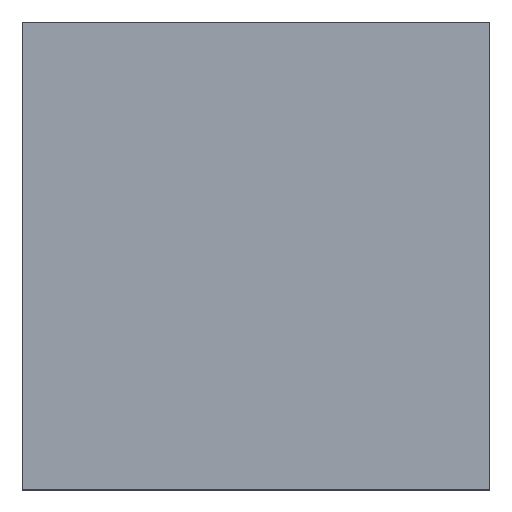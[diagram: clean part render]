
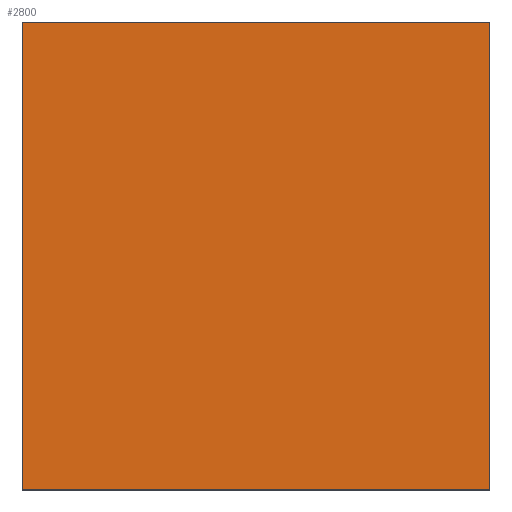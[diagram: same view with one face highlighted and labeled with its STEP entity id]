
A CAD part, top view. The second image highlights one B-rep face of the part: STEP entity #2800.
In plain terms, the highlighted planar face has unit normal (0, 0, 1).
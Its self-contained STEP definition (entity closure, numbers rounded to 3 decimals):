
#120 = CARTESIAN_POINT ('', (7.5, -7.5, 5.));
#130 = VERTEX_POINT ('', #120);
#190 = CARTESIAN_POINT ('', (-7.5, -7.5, 5.));
#200 = VERTEX_POINT ('', #190);
#210 = CARTESIAN_POINT ('', (-7.5, -7.5, 5.));
#220 = CARTESIAN_POINT ('', (-2.5, -7.5, 5.));
#230 = CARTESIAN_POINT ('', (2.5, -7.5, 5.));
#240 = CARTESIAN_POINT ('', (7.5, -7.5, 5.));
#250 = B_SPLINE_CURVE_WITH_KNOTS ('', 3, (#210, #220, #230, #240), .UNSPECIFIED., .F., .U., (4, 4), (0., 15.), .UNSPECIFIED.);
#260 = EDGE_CURVE ('', #200, #130, #250, .T.);
#610 = CARTESIAN_POINT ('', (7.5, 7.5, 5.));
#620 = VERTEX_POINT ('', #610);
#680 = CARTESIAN_POINT ('', (7.5, -7.5, 5.));
#690 = CARTESIAN_POINT ('', (7.5, -2.5, 5.));
#700 = CARTESIAN_POINT ('', (7.5, 2.5, 5.));
#710 = CARTESIAN_POINT ('', (7.5, 7.5, 5.));
#720 = B_SPLINE_CURVE_WITH_KNOTS ('', 3, (#680, #690, #700, #710), .UNSPECIFIED., .F., .U., (4, 4), (0., 15.), .UNSPECIFIED.);
#730 = EDGE_CURVE ('', #130, #620, #720, .T.);
#1190 = CARTESIAN_POINT ('', (-7.5, 7.5, 5.));
#1200 = VERTEX_POINT ('', #1190);
#1260 = CARTESIAN_POINT ('', (7.5, 7.5, 5.));
#1270 = CARTESIAN_POINT ('', (2.5, 7.5, 5.));
#1280 = CARTESIAN_POINT ('', (-2.5, 7.5, 5.));
#1290 = CARTESIAN_POINT ('', (-7.5, 7.5, 5.));
#1300 = B_SPLINE_CURVE_WITH_KNOTS ('', 3, (#1260, #1270, #1280, #1290), .UNSPECIFIED., .F., .U., (4, 4), (0., 15.), .UNSPECIFIED.);
#1310 = EDGE_CURVE ('', #620, #1200, #1300, .T.);
#1610 = CARTESIAN_POINT ('', (-7.5, 7.5, 5.));
#1620 = CARTESIAN_POINT ('', (-7.5, 2.5, 5.));
#1630 = CARTESIAN_POINT ('', (-7.5, -2.5, 5.));
#1640 = CARTESIAN_POINT ('', (-7.5, -7.5, 5.));
#1650 = B_SPLINE_CURVE_WITH_KNOTS ('', 3, (#1610, #1620, #1630, #1640), .UNSPECIFIED., .F., .U., (4, 4), (0., 15.), .UNSPECIFIED.);
#1660 = EDGE_CURVE ('', #1200, #200, #1650, .T.);
#2690 = ORIENTED_EDGE ('', *, *, #260, .T.);
#2700 = ORIENTED_EDGE ('', *, *, #730, .T.);
#2710 = ORIENTED_EDGE ('', *, *, #1310, .T.);
#2720 = ORIENTED_EDGE ('', *, *, #1660, .T.);
#2730 = EDGE_LOOP ('', (#2690, #2700, #2710, #2720));
#2740 = FACE_OUTER_BOUND ('', #2730, .T.);
#2750 = CARTESIAN_POINT ('', (0., 15.504, 5.));
#2760 = DIRECTION ('', (0., 0., 1.));
#2770 = DIRECTION ('', (-0.707, -0.707, 0.));
#2780 = AXIS2_PLACEMENT_3D ('', #2750, #2760, #2770);
#2790 = PLANE ('', #2780);
#2800 = ADVANCED_FACE ('', (#2740), #2790, .T.);
